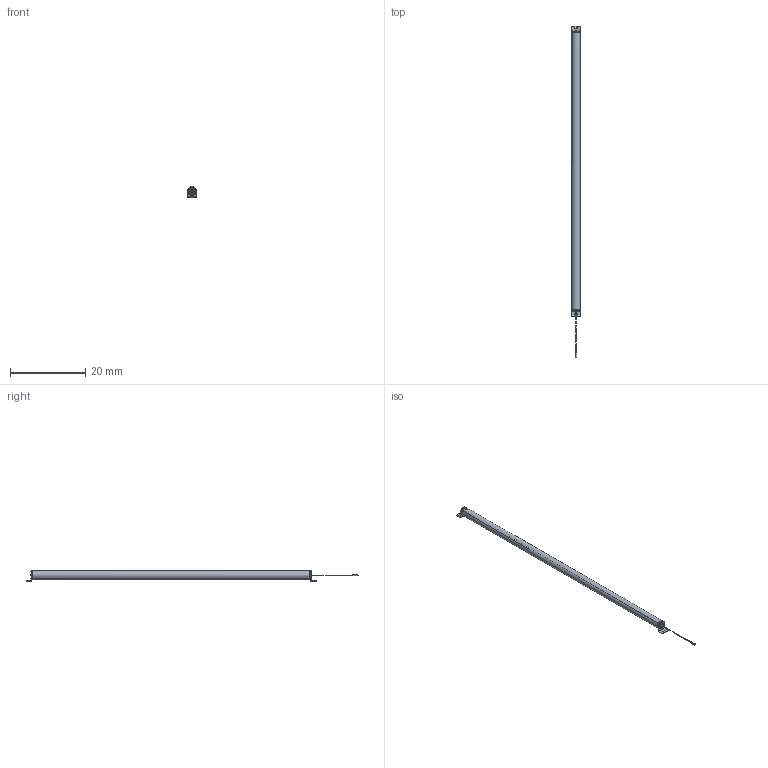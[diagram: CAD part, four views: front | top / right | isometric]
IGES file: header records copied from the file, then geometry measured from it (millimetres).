
Start section:  Autodesk DirectConnect version 7.0.27.0 ---- IGES version 5.3
Global section: file name: C:\ACADFILES\SS_PYLONS\CUSTOMER_FILES\SS-72-PYLON_3D_SMB_PT.iges; native system: Autodesk DirectConnect 7.0.27.0; preprocessor: 7.0.27.0; author: ENGINEERMAIN; organization: Unknown; date: 20150810.130127; units: millimetre
Bounding box: 2.26 x 88.01 x 2.75 mm (x, y, z)
Surface area: 2120.6 mm2 (no closed solid volume)
Topology: 0 solids, 0 shells, 772 faces, 3944 edges, 3944 vertices
Faces by surface type: bspline 772
